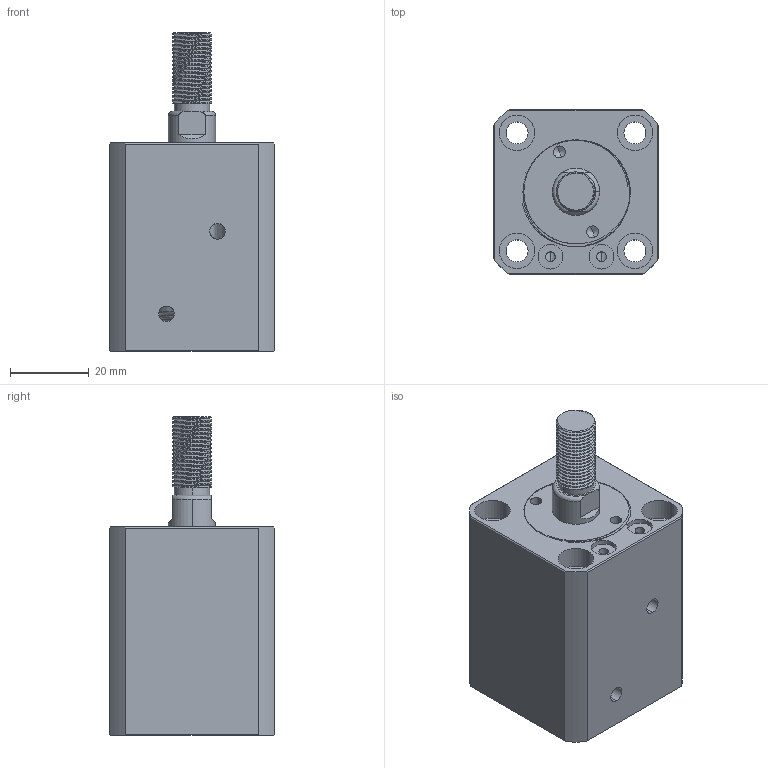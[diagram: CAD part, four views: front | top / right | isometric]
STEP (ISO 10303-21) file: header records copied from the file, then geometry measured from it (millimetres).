
FILE_DESCRIPTION (( 'STEP AP214' ), '1' );
FILE_NAME ('chtb-sdma20x10w_asm.STEP', '2018-05-18T04:12:55', ( 'Windows' ), ( 'Microsoft' ), 'SwSTEP 2.0', 'SolidWorks 2015', '' );
FILE_SCHEMA (( 'AUTOMOTIVE_DESIGN' ));
Length unit declared in the file: millimetre
Products named in the file (4): QG_3; CHTB-SDMA20X10WHSG; CHTB-SDMA20X10NBT; chtb-sdma20x10w_asm
Assembly tree (3 placements, depth 2):
  chtb-sdma20x10w_asm
    CHTB-SDMA20X10NBT
    CHTB-SDMA20X10WHSG
    QG_3
Bounding box: 42 x 42 x 81 mm (x, y, z)
Volume: 83282.3 mm3; surface area: 28539.1 mm2
Topology: 3 solids, 3 shells, 247 faces, 671 edges, 446 vertices
Faces by surface type: cylinder 144, plane 48, torus 25, bspline 23, cone 7
Entity records: 14895 total; most frequent: CARTESIAN_POINT 9018, ORIENTED_EDGE 1334, DIRECTION 1075, EDGE_CURVE 667, VERTEX_POINT 446, AXIS2_PLACEMENT_3D 441, EDGE_LOOP 285, FACE_OUTER_BOUND 247
